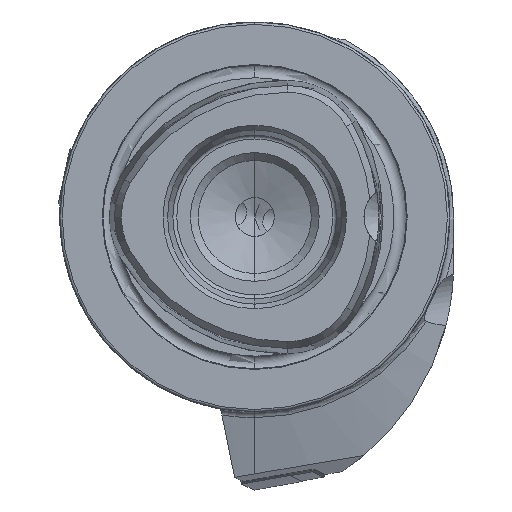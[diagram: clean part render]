
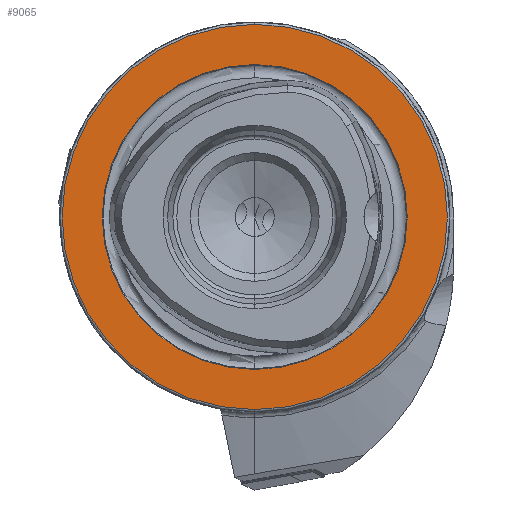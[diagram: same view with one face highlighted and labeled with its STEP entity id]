
A CAD part, left-side view. The second image highlights one B-rep face of the part: STEP entity #9065.
In plain terms, the highlighted planar face has unit normal (-1, 0, 0).
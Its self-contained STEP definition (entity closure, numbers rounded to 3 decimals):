
#163 = VERTEX_POINT ( 'NONE', #10204 ) ;
#453 = FACE_BOUND ( 'NONE', #8697, .T. ) ;
#559 = CIRCLE ( 'NONE', #2087, 24.7 ) ;
#833 = ORIENTED_EDGE ( 'NONE', *, *, #14200, .F. ) ;
#1086 = DIRECTION ( 'NONE',  ( -1., 0., 0. ) ) ;
#1918 = DIRECTION ( 'NONE',  ( 0., 0., -1. ) ) ;
#2087 = AXIS2_PLACEMENT_3D ( 'NONE', #7544, #12298, #5253 ) ;
#2646 = CIRCLE ( 'NONE', #7311, 19.55 ) ;
#2674 = VERTEX_POINT ( 'NONE', #4261 ) ;
#4261 = CARTESIAN_POINT ( 'NONE',  ( 0., 0., -19.55 ) ) ;
#4525 = CARTESIAN_POINT ( 'NONE',  ( 0., 0., 0. ) ) ;
#4821 = DIRECTION ( 'NONE',  ( 0., 0., 1. ) ) ;
#5005 = FACE_OUTER_BOUND ( 'NONE', #14339, .T. ) ;
#5253 = DIRECTION ( 'NONE',  ( 0., 0., 1. ) ) ;
#5315 = EDGE_CURVE ( 'NONE', #12869, #2674, #2646, .T. ) ;
#5370 = VERTEX_POINT ( 'NONE', #6868 ) ;
#5685 = DIRECTION ( 'NONE',  ( -1., 0., 0. ) ) ;
#6176 = ORIENTED_EDGE ( 'NONE', *, *, #7839, .T. ) ;
#6868 = CARTESIAN_POINT ( 'NONE',  ( 0., 0., -24.7 ) ) ;
#6994 = EDGE_CURVE ( 'NONE', #163, #5370, #10001, .T. ) ;
#7311 = AXIS2_PLACEMENT_3D ( 'NONE', #4525, #1086, #11331 ) ;
#7474 = CARTESIAN_POINT ( 'NONE',  ( 0., 0., 0. ) ) ;
#7544 = CARTESIAN_POINT ( 'NONE',  ( 0., 0., 0. ) ) ;
#7839 = EDGE_CURVE ( 'NONE', #5370, #163, #559, .T. ) ;
#8171 = CARTESIAN_POINT ( 'NONE',  ( 0., 0., 19.55 ) ) ;
#8209 = AXIS2_PLACEMENT_3D ( 'NONE', #13526, #11097, #1918 ) ;
#8697 = EDGE_LOOP ( 'NONE', ( #13662, #833 ) ) ;
#9065 = ADVANCED_FACE ( 'NONE', ( #453, #5005 ), #14541, .F. ) ;
#9675 = DIRECTION ( 'NONE',  ( -1., 0., 0. ) ) ;
#10001 = CIRCLE ( 'NONE', #14073, 24.7 ) ;
#10204 = CARTESIAN_POINT ( 'NONE',  ( 0., 0., 24.7 ) ) ;
#11097 = DIRECTION ( 'NONE',  ( 1., 0., 0. ) ) ;
#11191 = CIRCLE ( 'NONE', #12018, 19.55 ) ;
#11331 = DIRECTION ( 'NONE',  ( 0., 0., 1. ) ) ;
#11421 = CARTESIAN_POINT ( 'NONE',  ( 0., 0., 0. ) ) ;
#12018 = AXIS2_PLACEMENT_3D ( 'NONE', #7474, #9675, #13146 ) ;
#12298 = DIRECTION ( 'NONE',  ( -1., 0., 0. ) ) ;
#12442 = ORIENTED_EDGE ( 'NONE', *, *, #6994, .T. ) ;
#12869 = VERTEX_POINT ( 'NONE', #8171 ) ;
#13146 = DIRECTION ( 'NONE',  ( 0., 0., 1. ) ) ;
#13526 = CARTESIAN_POINT ( 'NONE',  ( 0., 19.55, 0. ) ) ;
#13662 = ORIENTED_EDGE ( 'NONE', *, *, #5315, .F. ) ;
#14073 = AXIS2_PLACEMENT_3D ( 'NONE', #11421, #5685, #4821 ) ;
#14200 = EDGE_CURVE ( 'NONE', #2674, #12869, #11191, .T. ) ;
#14339 = EDGE_LOOP ( 'NONE', ( #12442, #6176 ) ) ;
#14541 = PLANE ( 'NONE',  #8209 ) ;
